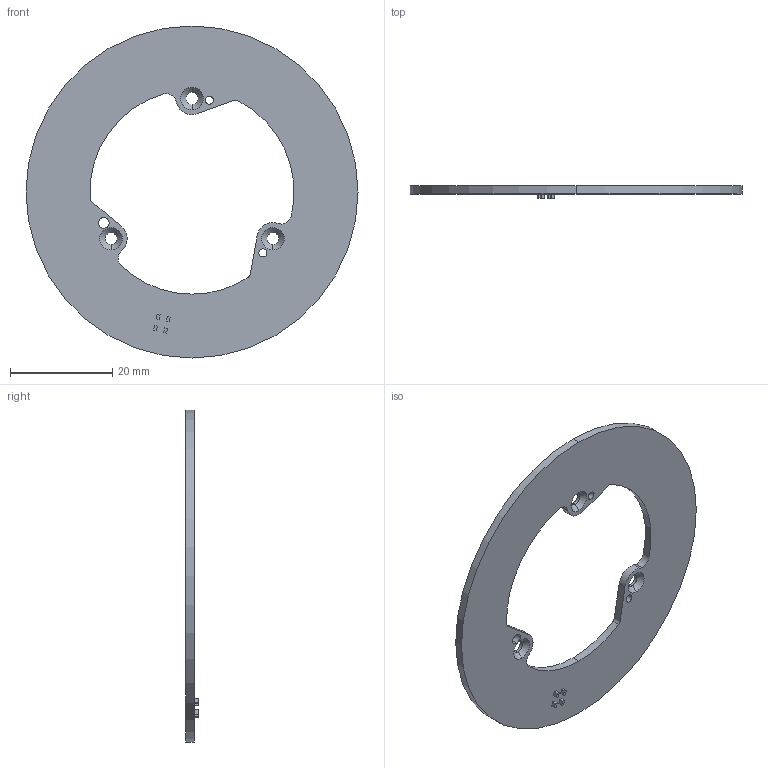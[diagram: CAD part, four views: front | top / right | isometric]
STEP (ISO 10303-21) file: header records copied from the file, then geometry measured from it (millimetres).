
FILE_DESCRIPTION (( 'STEP AP203' ), '1' );
FILE_NAME ('2422-102_Rev1-0 - Rotor.STEP', '2023-11-03T11:51:10', ( '' ), ( '' ), 'SwSTEP 2.0', 'SolidWorks 2022', '' );
FILE_SCHEMA (( 'CONFIG_CONTROL_DESIGN' ));
Length unit declared in the file: millimetre
Products named in the file (1): 2422-102_Rev1-0 - Rotor
Bounding box: 65 x 2.4 x 65 mm (x, y, z)
Volume: 3437.7 mm3; surface area: 4914.2 mm2
Topology: 1 solids, 1 shells, 60 faces, 156 edges, 102 vertices
Faces by surface type: cylinder 29, plane 25, cone 6
Entity records: 1961 total; most frequent: DIRECTION 342, CARTESIAN_POINT 319, ORIENTED_EDGE 312, EDGE_CURVE 156, AXIS2_PLACEMENT_3D 125, VERTEX_POINT 102, VECTOR 92, LINE 92
